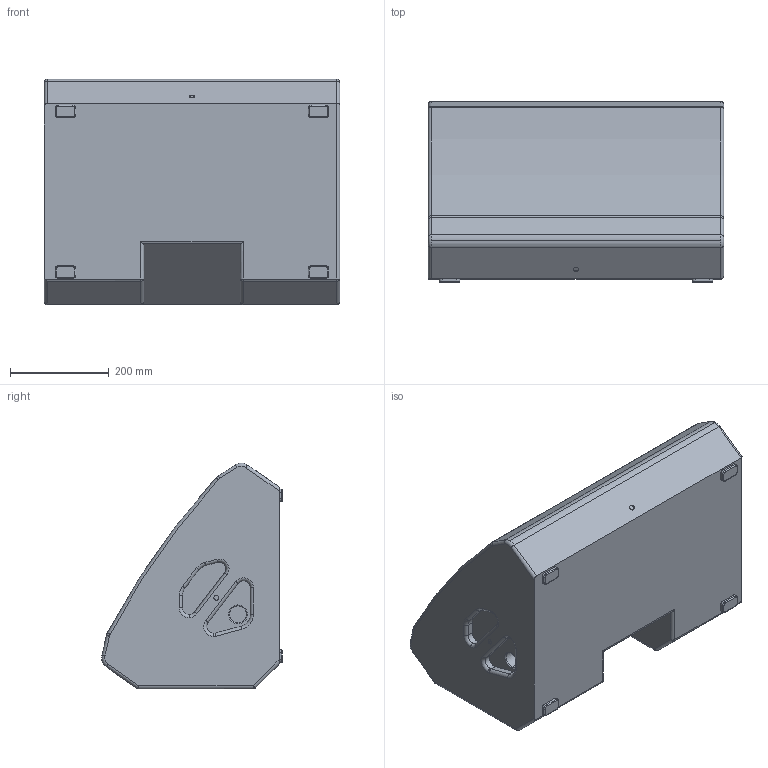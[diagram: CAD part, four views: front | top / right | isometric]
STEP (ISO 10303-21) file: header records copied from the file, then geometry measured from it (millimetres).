
FILE_DESCRIPTION (( 'STEP AP214' ), '1' );
FILE_NAME ('MFX-15MC 3D CAD.STEP', '2019-09-23T15:41:51', ( '' ), ( '' ), 'SwSTEP 2.0', 'SolidWorks 2018', '' );
FILE_SCHEMA (( 'AUTOMOTIVE_DESIGN' ));
Length unit declared in the file: millimetre
Products named in the file (2): MFX-15MC 3D CAD
Bounding box: 600 x 366.94 x 458.31 mm (x, y, z)
Volume: 68376960.6 mm3; surface area: 1091615 mm2
Topology: 1 solids, 1 shells, 219 faces, 506 edges, 300 vertices
Faces by surface type: cylinder 107, plane 55, torus 50, sphere 7
Entity records: 6223 total; most frequent: DIRECTION 1196, CARTESIAN_POINT 1066, ORIENTED_EDGE 1006, EDGE_CURVE 503, AXIS2_PLACEMENT_3D 486, VERTEX_POINT 300, CIRCLE 265, EDGE_LOOP 233
